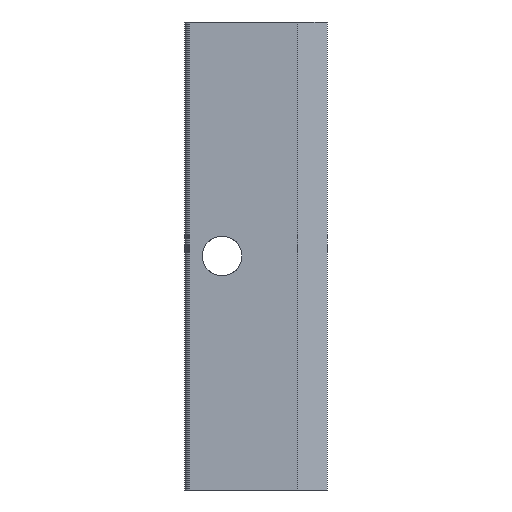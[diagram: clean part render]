
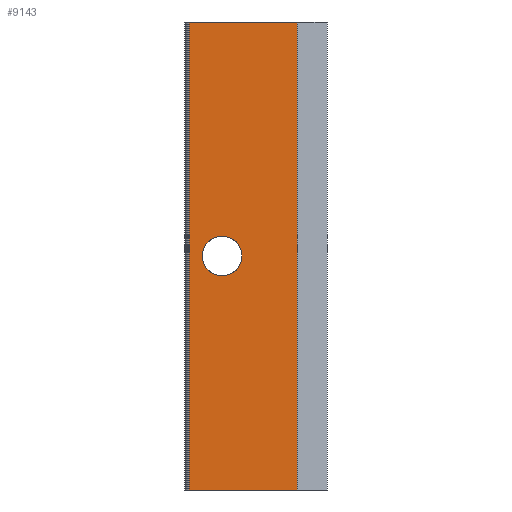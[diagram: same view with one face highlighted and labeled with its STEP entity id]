
A CAD part, front view. The second image highlights one B-rep face of the part: STEP entity #9143.
In plain terms, the highlighted planar face has unit normal (0, -1, 0).
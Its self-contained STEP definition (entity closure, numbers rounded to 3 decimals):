
#819 = CARTESIAN_POINT ( 'NONE',  ( -1080.038, 3263.356, 50. ) ) ;
#829 = CARTESIAN_POINT ( 'NONE',  ( -1080.038, 3263.356, 54.25 ) ) ;
#831 = CARTESIAN_POINT ( 'NONE',  ( -1080.038, 3263.356, 45.75 ) ) ;
#868 = DIRECTION ( 'NONE',  ( 0., 0., 1. ) ) ;
#869 = DIRECTION ( 'NONE',  ( 0., 1., 0. ) ) ;
#870 = AXIS2_PLACEMENT_3D ( 'NONE', #819, #869, #868 ) ;
#871 = CIRCLE ( 'NONE', #870, 4.25 ) ;
#1818 = LINE ( 'NONE', #1874, #1873 ) ;
#1830 = CARTESIAN_POINT ( 'NONE',  ( -1063.93, 3263.356, 0. ) ) ;
#1872 = DIRECTION ( 'NONE',  ( 0., 0., -1. ) ) ;
#1873 = VECTOR ( 'NONE', #1872, 1000. ) ;
#1874 = CARTESIAN_POINT ( 'NONE',  ( -1087.035, 3263.356, 100. ) ) ;
#1940 = CARTESIAN_POINT ( 'NONE',  ( -1087.035, 3263.356, 100. ) ) ;
#1956 = CARTESIAN_POINT ( 'NONE',  ( -1087.035, 3263.356, 0. ) ) ;
#1980 = CARTESIAN_POINT ( 'NONE',  ( -1063.93, 3263.356, 100. ) ) ;
#2036 = PLANE ( 'NONE',  #2038 ) ;
#2037 = FACE_OUTER_BOUND ( 'NONE', #9137, .T. ) ;
#2038 = AXIS2_PLACEMENT_3D ( 'NONE', #2044, #2087, #2086 ) ;
#2044 = CARTESIAN_POINT ( 'NONE',  ( -1063.93, 3263.356, 100. ) ) ;
#2060 = CARTESIAN_POINT ( 'NONE',  ( -1063.93, 3263.356, 0. ) ) ;
#2061 = FACE_BOUND ( 'NONE', #9058, .T. ) ;
#2072 = CIRCLE ( 'NONE', #2109, 4.25 ) ;
#2074 = DIRECTION ( 'NONE',  ( 0., 0., -1. ) ) ;
#2075 = VECTOR ( 'NONE', #2074, 1000. ) ;
#2076 = CARTESIAN_POINT ( 'NONE',  ( -1063.93, 3263.356, 100. ) ) ;
#2085 = LINE ( 'NONE', #2076, #2075 ) ;
#2086 = DIRECTION ( 'NONE',  ( 0., 0., 1. ) ) ;
#2087 = DIRECTION ( 'NONE',  ( 0., 1., 0. ) ) ;
#2090 = DIRECTION ( 'NONE',  ( 1., 0., 0. ) ) ;
#2091 = VECTOR ( 'NONE', #2090, 1000. ) ;
#2092 = LINE ( 'NONE', #2060, #2091 ) ;
#2105 = DIRECTION ( 'NONE',  ( 0., 0., 1. ) ) ;
#2106 = DIRECTION ( 'NONE',  ( 0., 1., 0. ) ) ;
#2107 = CARTESIAN_POINT ( 'NONE',  ( -1080.038, 3263.356, 50. ) ) ;
#2109 = AXIS2_PLACEMENT_3D ( 'NONE', #2107, #2106, #2105 ) ;
#2126 = DIRECTION ( 'NONE',  ( 1., 0., 0. ) ) ;
#2127 = CARTESIAN_POINT ( 'NONE',  ( -1063.93, 3263.356, 100. ) ) ;
#2167 = VECTOR ( 'NONE', #2126, 1000. ) ;
#2169 = LINE ( 'NONE', #2127, #2167 ) ;
#5403 = VERTEX_POINT ( 'NONE', #831 ) ;
#5404 = VERTEX_POINT ( 'NONE', #829 ) ;
#5407 = EDGE_CURVE ( 'NONE', #5403, #5404, #871, .T. ) ;
#8972 = VERTEX_POINT ( 'NONE', #1830 ) ;
#8973 = EDGE_CURVE ( 'NONE', #9032, #9069, #1818, .T. ) ;
#9032 = VERTEX_POINT ( 'NONE', #1940 ) ;
#9058 = EDGE_LOOP ( 'NONE', ( #9172, #9141 ) ) ;
#9069 = VERTEX_POINT ( 'NONE', #1956 ) ;
#9094 = VERTEX_POINT ( 'NONE', #1980 ) ;
#9137 = EDGE_LOOP ( 'NONE', ( #9138, #9216, #9198, #9173 ) ) ;
#9138 = ORIENTED_EDGE ( 'NONE', *, *, #9139, .T. ) ;
#9139 = EDGE_CURVE ( 'NONE', #9069, #8972, #2092, .T. ) ;
#9141 = ORIENTED_EDGE ( 'NONE', *, *, #5407, .T. ) ;
#9143 = ADVANCED_FACE ( 'NONE', ( #2061, #2037 ), #2036, .F. ) ;
#9151 = EDGE_CURVE ( 'NONE', #9094, #8972, #2085, .T. ) ;
#9172 = ORIENTED_EDGE ( 'NONE', *, *, #9176, .T. ) ;
#9173 = ORIENTED_EDGE ( 'NONE', *, *, #8973, .T. ) ;
#9176 = EDGE_CURVE ( 'NONE', #5404, #5403, #2072, .T. ) ;
#9198 = ORIENTED_EDGE ( 'NONE', *, *, #9221, .F. ) ;
#9216 = ORIENTED_EDGE ( 'NONE', *, *, #9151, .F. ) ;
#9221 = EDGE_CURVE ( 'NONE', #9032, #9094, #2169, .T. ) ;
